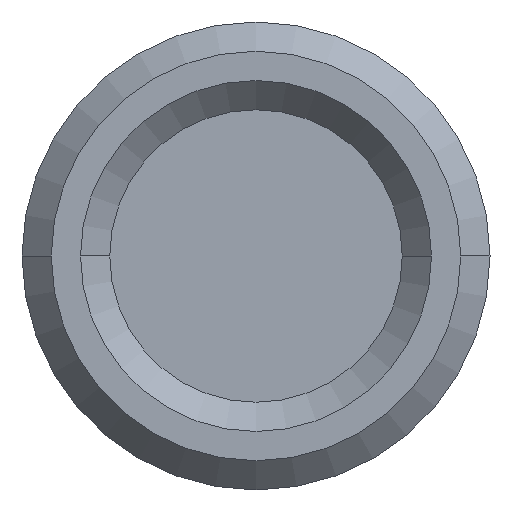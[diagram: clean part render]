
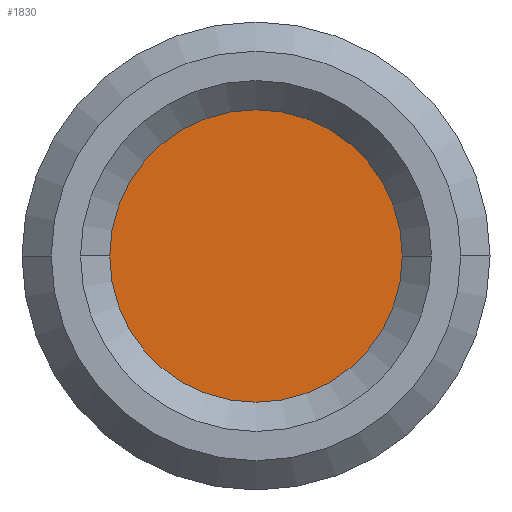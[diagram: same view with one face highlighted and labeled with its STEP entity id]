
A CAD part, front view. The second image highlights one B-rep face of the part: STEP entity #1830.
In plain terms, the highlighted planar face has unit normal (0, -1, 0).
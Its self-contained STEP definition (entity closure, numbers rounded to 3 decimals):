
#77 = AXIS2_PLACEMENT_3D ( 'NONE', #1307, #1286, #1285 ) ;
#228 = FACE_OUTER_BOUND ( 'NONE', #2157, .T. ) ;
#243 = DIRECTION ( 'NONE',  ( 0., 0., -1. ) ) ;
#247 = DIRECTION ( 'NONE',  ( 0., -1., 0. ) ) ;
#248 = CARTESIAN_POINT ( 'NONE',  ( 0., -44., 0. ) ) ;
#382 = EDGE_CURVE ( 'NONE', #1329, #1249, #963, .T. ) ;
#553 = CIRCLE ( 'NONE', #1783, 5. ) ;
#881 = EDGE_CURVE ( 'NONE', #1249, #1329, #553, .T. ) ;
#963 = CIRCLE ( 'NONE', #1835, 5. ) ;
#1185 = ORIENTED_EDGE ( 'NONE', *, *, #382, .T. ) ;
#1249 = VERTEX_POINT ( 'NONE', #1564 ) ;
#1285 = DIRECTION ( 'NONE',  ( 0., 0., -1. ) ) ;
#1286 = DIRECTION ( 'NONE',  ( 0., -1., 0. ) ) ;
#1288 = PLANE ( 'NONE',  #77 ) ;
#1307 = CARTESIAN_POINT ( 'NONE',  ( 0., -44., 0. ) ) ;
#1329 = VERTEX_POINT ( 'NONE', #1525 ) ;
#1500 = ORIENTED_EDGE ( 'NONE', *, *, #881, .T. ) ;
#1525 = CARTESIAN_POINT ( 'NONE',  ( 0., -44., 5. ) ) ;
#1564 = CARTESIAN_POINT ( 'NONE',  ( 0., -44., -5. ) ) ;
#1783 = AXIS2_PLACEMENT_3D ( 'NONE', #1792, #1787, #1784 ) ;
#1784 = DIRECTION ( 'NONE',  ( 0., 0., -1. ) ) ;
#1787 = DIRECTION ( 'NONE',  ( 0., -1., 0. ) ) ;
#1792 = CARTESIAN_POINT ( 'NONE',  ( 0., -44., 0. ) ) ;
#1830 = ADVANCED_FACE ( 'NONE', ( #228 ), #1288, .T. ) ;
#1835 = AXIS2_PLACEMENT_3D ( 'NONE', #248, #247, #243 ) ;
#2157 = EDGE_LOOP ( 'NONE', ( #1500, #1185 ) ) ;
